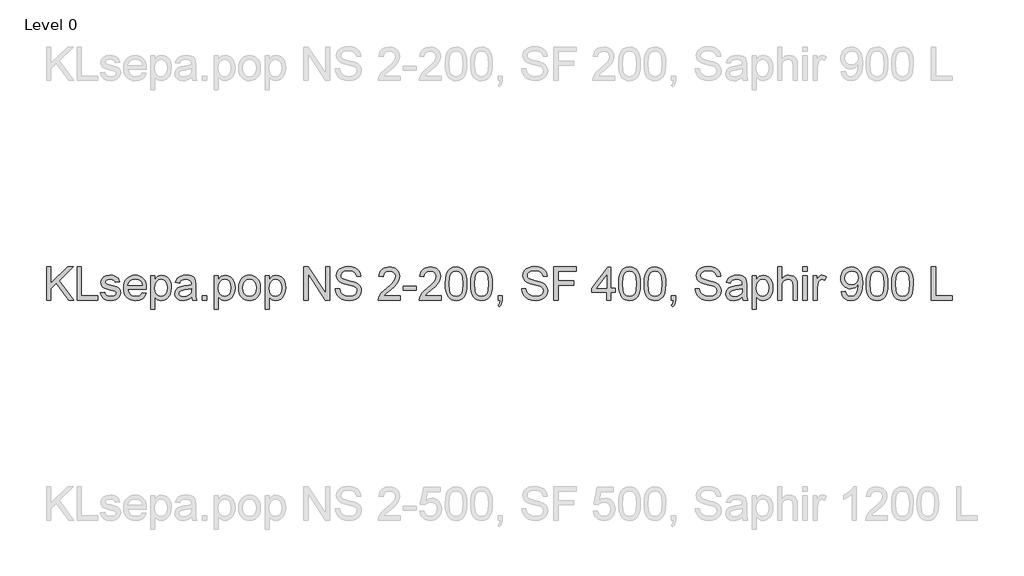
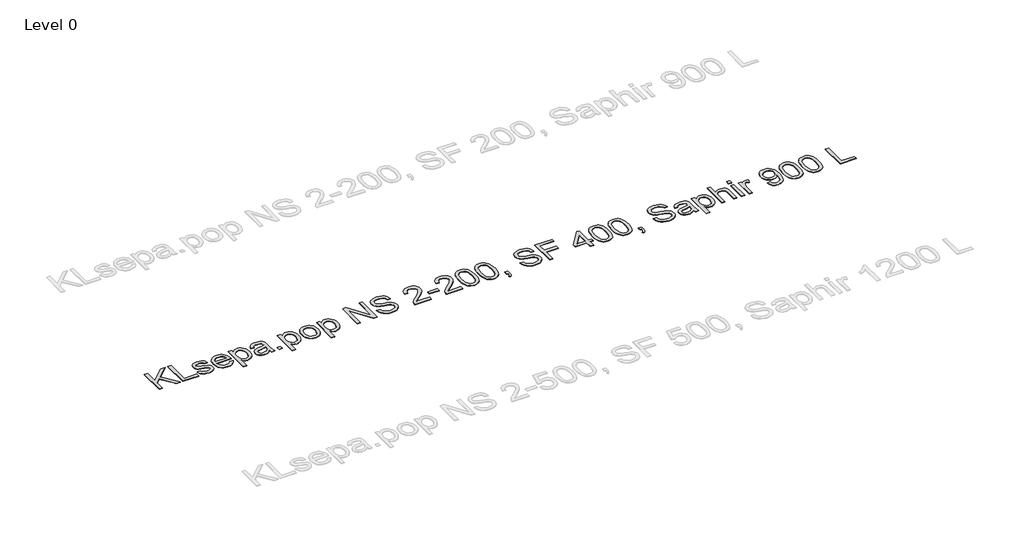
# One storey, part 11 of 15: 1 proxy.
"""IFC4 building model written with IfcOpenShell, lengths in millimetres."""

from ifc_helpers import new_model, si_unit, origin, origin_with_axes, place, context, project, spatial, polyline, outline, extrude, element, save

model = new_model("IFC4")

# Units and contexts
model_context = context("Model", 3, world=origin())
ifc_project = project(units=[si_unit("LENGTHUNIT", "METRE", prefix="MILLI")], contexts=[model_context])

# Site, building, storey
site = spatial("IfcSite", under=ifc_project)
building = spatial("IfcBuilding", under=site)
storey = spatial("IfcBuildingStorey", under=building, Name="Level 0", Elevation=0.0)

# Proxy
placement = place(None, origin())
element("IfcBuildingElementProxy", 1, Name="300mm Arial", ObjectType="300mm Arial", at=placement, inside=storey, context=model_context, shape_type="SweptSolid", body=[
    extrude(outline(polyline([(862.8420262, 4199.0232018), (862.8420262, 4500.3921323), (900.5131425, 4500.3921323), (900.5131425, 4352.8714522), (1055.0235805, 4500.3921323), (1107.7042822, 4500.3921323), (977.9890907, 4376.4894763), (1112.4131718, 4199.0232018), (1066.354346, 4199.0232018), (951.2808579, 4351.0320422), (900.5131425, 4302.6187717), (900.5131425, 4199.0232018), (862.8420262, 4199.0232018)])), origin_with_axes(), (0.0, 0.0, 1.0), 5.0),
    extrude(outline(polyline([(1140.666509, 4199.0232018), (1140.666509, 4500.3921323), (1178.3376253, 4500.3921323), (1178.3376253, 4236.6943181), (1329.0220905, 4236.6943181), (1329.0220905, 4199.0232018), (1140.666509, 4199.0232018)])), origin_with_axes(), (0.0, 0.0, 1.0), 5.0),
    extrude(outline(polyline([(1352.5665382, 4264.9476554), (1390.2376545, 4269.6565449), (1396.1789487, 4253.5433135), (1407.6752611, 4241.6975133), (1424.800168, 4234.4134498), (1447.6272458, 4231.9854286), (1470.1784121, 4234.2111147), (1486.0341261, 4240.8881729), (1495.4151169, 4250.5634693), (1498.5421139, 4261.7838702), (1495.3967228, 4271.3855903), (1485.9605497, 4278.706442), (1447.1857874, 4289.4485962), (1390.4583837, 4307.8794842), (1376.1017888, 4317.1409134), (1365.6999254, 4329.4005809), (1359.3815522, 4343.8767374), (1357.2754277, 4359.7876337), (1358.9676849, 4374.3833519), (1364.0444565, 4387.8570299), (1372.0458899, 4399.675239), (1382.5121326, 4409.3045503), (1406.4612505, 4420.4513747), (1438.8716543, 4425.0498997), (1463.3909893, 4423.2012926), (1484.7097509, 4417.6554716), (1501.8530519, 4408.9550624), (1513.8460049, 4397.642691), (1521.792256, 4382.881426), (1526.7954511, 4363.8343357), (1489.1243348, 4359.1254461), (1484.36946, 4370.9804434), (1474.960878, 4379.9107789), (1460.8066182, 4385.5117822), (1441.8147102, 4387.3787834), (1420.1832489, 4385.5945557), (1405.7622747, 4380.2418726), (1397.6504767, 4372.5163507), (1394.9465441, 4363.6136065), (1399.4347044, 4352.650723), (1413.4877966, 4344.3365899), (1445.9349886, 4336.3167624), (1501.2276525, 4318.5848503), (1515.8325677, 4310.1051703), (1526.9058157, 4298.4984933), (1533.8863766, 4283.7280312), (1536.2132302, 4265.7569957), (1533.4817064, 4247.178955), (1525.2871349, 4229.7045602), (1511.9422156, 4214.7041719), (1493.759648, 4203.5481504), (1471.7970928, 4196.6227718), (1447.112211, 4194.3143123), (1409.128395, 4198.7656844), (1381.4084866, 4212.1198009), (1362.9040223, 4234.2295088), (1352.5665382, 4264.9476554)])), origin_with_axes(), (0.0, 0.0, 1.0), 5.0),
    extrude(outline(polyline([(1733.5451324, 4264.9476554), (1770.4804847, 4260.2387658), (1757.1723536, 4232.4084929), (1735.9363654, 4211.6047661), (1707.2507668, 4198.6369257), (1671.5938044, 4194.3143123), (1648.2195022, 4196.1790141), (1627.3927827, 4201.7731197), (1609.1136461, 4211.0966291), (1593.3820923, 4224.1495421), (1580.7315501, 4240.5685754), (1571.6954486, 4259.9904455), (1566.2737877, 4282.4151523), (1564.4665674, 4307.842696), (1566.2921818, 4334.1324631), (1571.769025, 4357.3044302), (1580.897097, 4377.3585975), (1593.6763978, 4394.2949649), (1609.3665649, 4407.7502488), (1627.2272358, 4417.361166), (1647.2584104, 4423.1277162), (1669.4600889, 4425.0498997), (1690.9466966, 4423.1323148), (1710.3777638, 4417.3795601), (1727.7532903, 4407.7916356), (1743.0732761, 4394.3685413), (1755.5789647, 4377.4689621), (1764.5115994, 4357.451583), (1769.8711802, 4334.3164041), (1771.6577071, 4308.0634252), (1771.4369779, 4297.9098821), (1602.1376837, 4297.9098821), (1608.6583921, 4269.7117272), (1623.8059333, 4248.9815768), (1645.6673208, 4236.2344656), (1672.3295684, 4231.9854286), (1692.3791372, 4233.9535973), (1709.2649207, 4239.8581033), (1722.9869192, 4250.0668287), (1733.5451324, 4264.9476554)]), holes=[polyline([(1602.1376837, 4335.5809984), (1733.9865908, 4335.5809984), (1728.8914252, 4355.4834144), (1718.903429, 4369.7204476), (1696.9408739, 4382.9641994), (1669.3129361, 4387.3787834), (1643.9198813, 4383.8563132), (1622.9230165, 4373.2889029), (1608.3272983, 4356.8169866), (1602.1376837, 4335.5809984)])]), origin_with_axes(), (0.0, 0.0, 1.0), 5.0),
    extrude(outline(polyline([(1809.3288234, 4114.2631901), (1809.3288234, 4420.3410101), (1846.9999397, 4420.3410101), (1846.9999397, 4383.4056578), (1859.2871984, 4401.6250136), (1873.045985, 4414.6388392), (1889.08564, 4422.4471345), (1908.2155037, 4425.0498997), (1933.6913319, 4421.4078679), (1955.9665867, 4410.4817726), (1974.1031691, 4392.9338015), (1987.1629799, 4369.426142), (1995.0540487, 4341.6694455), (1997.6844049, 4311.3743631), (1994.7137578, 4279.1570974), (1985.8018165, 4250.3427401), (1971.2336895, 4226.3936223), (1951.2944854, 4208.7720747), (1928.0719344, 4197.9287529), (1903.653767, 4194.3143123), (1886.3357221, 4196.7331364), (1870.8754812, 4203.9896088), (1857.6409264, 4214.9432952), (1846.9999397, 4228.4537614), (1846.9999397, 4114.2631901), (1809.3288234, 4114.2631901)]), holes=[polyline([(1846.9999397, 4307.9162724), (1851.0742328, 4274.1447052), (1863.2971121, 4250.5266811), (1881.3325269, 4236.6207417), (1902.8444266, 4231.9854286), (1924.7058142, 4236.7862886), (1943.2010815, 4251.1888687), (1955.8102368, 4275.6714155), (1960.0132886, 4310.7121756), (1955.9114044, 4344.2998017), (1943.6057517, 4368.2489196), (1925.597928, 4382.5963174), (1904.389531, 4387.3787834), (1883.0983605, 4382.2928148), (1864.4007581, 4367.034909), (1851.3501443, 4342.0833127), (1846.9999397, 4307.9162724)])]), origin_with_axes(), (0.0, 0.0, 1.0), 5.0),
    extrude(outline(polyline([(2181.3310969, 4227.2765391), (2163.3324703, 4211.8438894), (2144.8004148, 4201.7455286), (2125.3118661, 4196.1721164), (2104.44376, 4194.3143123), (2072.9622582, 4198.7840785), (2049.7397073, 4212.1933772), (2035.4199006, 4232.5556457), (2030.6466317, 4257.8843211), (2032.4492535, 4273.5009117), (2037.8571188, 4287.6827627), (2046.1988431, 4299.8228685), (2056.8030416, 4309.314224), (2083.1801806, 4321.675059), (2115.7745254, 4327.3404417), (2154.2917703, 4333.3001301), (2181.1103677, 4340.289888), (2181.3310969, 4348.6775975), (2178.7375289, 4365.4898046), (2170.9568247, 4376.4894763), (2153.5560063, 4384.6564566), (2129.3125828, 4387.3787834), (2106.8717811, 4385.5669645), (2091.2000081, 4380.131508), (2080.5130362, 4370.0791325), (2073.0266376, 4354.4165566), (2035.3555213, 4359.1254461), (2041.8946237, 4379.7268379), (2051.6526936, 4395.9136456), (2065.540239, 4408.2928748), (2084.4677676, 4417.4715306), (2107.6167422, 4423.1553074), (2134.1686252, 4425.0498997), (2159.6352563, 4423.3760366), (2179.8227808, 4418.3544473), (2195.0438983, 4410.8036694), (2205.6113086, 4401.5422402), (2212.6194606, 4390.0919131), (2217.1628033, 4375.9744415), (2219.0022132, 4343.0122147), (2219.0022132, 4296.1440485), (2220.9151996, 4230.6978416), (2228.4199923, 4199.0232018), (2190.748876, 4199.0232018), (2181.3310969, 4227.2765391)]), holes=[polyline([(2181.3310969, 4302.6187717), (2120.5569913, 4291.067277), (2088.1465876, 4284.9604359), (2073.468096, 4275.027622), (2068.317748, 4260.5330714), (2071.1228482, 4249.3310647), (2079.5381489, 4240.1524089), (2093.3797089, 4234.0271737), (2112.4635874, 4231.9854286), (2132.6970972, 4234.2387058), (2150.5761621, 4240.9985375), (2165.0707128, 4250.9589425), (2175.1506794, 4262.8139398), (2179.6204457, 4275.027622), (2181.1103677, 4291.9501938), (2181.3310969, 4302.6187717)])]), origin_with_axes(), (0.0, 0.0, 1.0), 5.0),
    extrude(outline(polyline([(2280.2177772, 4199.0232018), (2280.2177772, 4236.6943181), (2317.8888936, 4236.6943181), (2317.8888936, 4199.0232018), (2280.2177772, 4199.0232018)])), origin_with_axes(), (0.0, 0.0, 1.0), 5.0),
    extrude(outline(polyline([(2388.5222366, 4114.2631901), (2388.5222366, 4420.3410101), (2426.1933529, 4420.3410101), (2426.1933529, 4383.4056578), (2438.4806116, 4401.6250136), (2452.2393982, 4414.6388392), (2468.2790532, 4422.4471345), (2487.4089169, 4425.0498997), (2512.8847451, 4421.4078679), (2535.1599999, 4410.4817726), (2553.2965823, 4392.9338015), (2566.3563931, 4369.426142), (2574.2474619, 4341.6694455), (2576.8778182, 4311.3743631), (2573.907171, 4279.1570974), (2564.9952297, 4250.3427401), (2550.4271027, 4226.3936223), (2530.4878986, 4208.7720747), (2507.2653476, 4197.9287529), (2482.8471802, 4194.3143123), (2465.5291353, 4196.7331364), (2450.0688944, 4203.9896088), (2436.8343396, 4214.9432952), (2426.1933529, 4228.4537614), (2426.1933529, 4114.2631901), (2388.5222366, 4114.2631901)]), holes=[polyline([(2426.1933529, 4307.9162724), (2430.267646, 4274.1447052), (2442.4905253, 4250.5266811), (2460.5259401, 4236.6207417), (2482.0378398, 4231.9854286), (2503.8992274, 4236.7862886), (2522.3944947, 4251.1888687), (2535.0036501, 4275.6714155), (2539.2067019, 4310.7121756), (2535.1048176, 4344.2998017), (2522.7991649, 4368.2489196), (2504.7913412, 4382.5963174), (2483.5829442, 4387.3787834), (2462.2917737, 4382.2928148), (2443.5941713, 4367.034909), (2430.5435575, 4342.0833127), (2426.1933529, 4307.9162724)])]), origin_with_axes(), (0.0, 0.0, 1.0), 5.0),
    extrude(outline(polyline([(2609.8400449, 4309.682106), (2611.8771915, 4338.3447119), (2617.9886311, 4363.0433894), (2628.1743639, 4383.7781383), (2642.4343897, 4400.5489588), (2656.7909846, 4411.2681204), (2672.6375015, 4418.9246644), (2689.9739405, 4423.5185909), (2708.8003016, 4425.0498997), (2729.5833351, 4423.1851978), (2748.3752073, 4417.5910922), (2765.1759181, 4408.2675829), (2779.9854677, 4395.2146698), (2792.0726905, 4378.8738115), (2800.7064211, 4359.6864662), (2805.8866594, 4337.6526339), (2807.6134055, 4312.7723147), (2804.559985, 4274.7149223), (2795.3997233, 4245.7442152), (2780.3993349, 4224.0483745), (2759.8255344, 4207.8155815), (2735.3889728, 4197.6896296), (2708.8003016, 4194.3143123), (2687.7137655, 4196.1721164), (2668.7471494, 4201.7455286), (2651.9004533, 4211.034549), (2637.1736772, 4224.0391775), (2625.2152131, 4240.538685), (2616.673453, 4260.3123422), (2611.5483969, 4283.3601492), (2609.8400449, 4309.682106)]), holes=[polyline([(2647.5111612, 4309.7556824), (2651.8705629, 4275.6622185), (2664.9487678, 4251.3728097), (2684.6304545, 4236.8322739), (2708.8003016, 4231.9854286), (2732.8597841, 4236.859865), (2752.5046827, 4251.4831743), (2765.5828876, 4276.0944798), (2769.9422892, 4310.9329048), (2765.5552964, 4344.0330873), (2752.3943181, 4367.9914022), (2732.7218284, 4382.5319381), (2708.8003016, 4387.3787834), (2684.6304545, 4382.5503322), (2664.9487678, 4368.0649786), (2651.8705629, 4343.8307522), (2647.5111612, 4309.7556824)])]), origin_with_axes(), (0.0, 0.0, 1.0), 5.0),
    extrude(outline(polyline([(2849.9934114, 4114.2631901), (2849.9934114, 4420.3410101), (2887.6645277, 4420.3410101), (2887.6645277, 4383.4056578), (2899.9517863, 4401.6250136), (2913.7105729, 4414.6388392), (2929.7502279, 4422.4471345), (2948.8800917, 4425.0498997), (2974.3559198, 4421.4078679), (2996.6311747, 4410.4817726), (3014.767757, 4392.9338015), (3027.8275678, 4369.426142), (3035.7186366, 4341.6694455), (3038.3489929, 4311.3743631), (3035.3783458, 4279.1570974), (3026.4664045, 4250.3427401), (3011.8982775, 4226.3936223), (2991.9590733, 4208.7720747), (2968.7365224, 4197.9287529), (2944.3183549, 4194.3143123), (2927.00031, 4196.7331364), (2911.5400692, 4203.9896088), (2898.3055144, 4214.9432952), (2887.6645277, 4228.4537614), (2887.6645277, 4114.2631901), (2849.9934114, 4114.2631901)]), holes=[polyline([(2887.6645277, 4307.9162724), (2891.7388208, 4274.1447052), (2903.9617001, 4250.5266811), (2921.9971149, 4236.6207417), (2943.5090145, 4231.9854286), (2965.3704021, 4236.7862886), (2983.8656694, 4251.1888687), (2996.4748248, 4275.6714155), (3000.6778766, 4310.7121756), (2996.5759924, 4344.2998017), (2984.2703396, 4368.2489196), (2966.262516, 4382.5963174), (2945.0541189, 4387.3787834), (2923.7629485, 4382.2928148), (2905.0653461, 4367.034909), (2892.0147323, 4342.0833127), (2887.6645277, 4307.9162724)])]), origin_with_axes(), (0.0, 0.0, 1.0), 5.0),
    extrude(outline(polyline([(3203.1601267, 4199.0232018), (3203.1601267, 4500.3921323), (3243.4799934, 4500.3921323), (3400.9334874, 4261.6367174), (3400.9334874, 4500.3921323), (3438.6046037, 4500.3921323), (3438.6046037, 4199.0232018), (3398.284737, 4199.0232018), (3240.8312431, 4437.8521931), (3240.8312431, 4199.0232018), (3203.1601267, 4199.0232018)])), origin_with_axes(), (0.0, 0.0, 1.0), 5.0),
    extrude(outline(polyline([(3490.4023886, 4302.6187717), (3528.0735049, 4302.6187717), (3532.3961183, 4281.7138773), (3540.2136107, 4264.9108672), (3552.4088989, 4251.5751448), (3569.8648995, 4241.0721139), (3591.2020553, 4234.2570999), (3615.0408085, 4231.9854286), (3636.0284764, 4233.7052769), (3654.404182, 4238.8648219), (3669.2942058, 4247.0318022), (3679.8248279, 4257.7739565), (3686.0880189, 4270.1072003), (3688.1757492, 4283.0474495), (3686.6122507, 4295.6566049), (3681.9217553, 4306.555109), (3672.3936116, 4315.8533264), (3656.3171684, 4323.6616218), (3601.4659629, 4338.0458078), (3565.4595126, 4347.5647544), (3542.4209027, 4356.6238486), (3523.668118, 4369.2973833), (3510.3783809, 4384.6564566), (3502.459721, 4402.3699747), (3499.8201677, 4422.1068437), (3503.0851204, 4444.1705664), (3512.8799785, 4464.7443669), (3528.9472246, 4482.1819735), (3551.0293414, 4494.8371141), (3577.5352391, 4502.5350449), (3606.8738283, 4505.1010218), (3638.6588326, 4502.4154832), (3666.4707115, 4494.3588675), (3689.3161834, 4481.0967216), (3706.2019669, 4462.7945924), (3716.8889389, 4440.592914), (3721.137976, 4415.6321206), (3683.4668596, 4415.6321206), (3676.5506781, 4438.1097105), (3662.1297039, 4454.3333065), (3639.5969317, 4464.1557557), (3608.3453562, 4467.4299055), (3576.3580168, 4464.1925439), (3554.4138557, 4454.4804593), (3541.7219269, 4440.1882438), (3537.491284, 4423.2104897), (3540.4895222, 4408.7343332), (3549.484237, 4397.090868), (3570.7478163, 4386.6798076), (3610.9941066, 4376.0480179), (3652.5279839, 4365.9496571), (3677.6543241, 4357.1388833), (3699.1294356, 4343.4720672), (3714.1114298, 4326.6046777), (3722.9130066, 4306.7206559), (3725.8468655, 4284.0039427), (3722.4715482, 4260.7813918), (3712.3455963, 4238.9383983), (3695.882877, 4220.1396283), (3673.4972576, 4206.0497479), (3646.5774926, 4197.2481712), (3616.5123365, 4194.3143123), (3579.6045754, 4197.4780974), (3549.2267196, 4206.9694529), (3525.0292814, 4222.8251669), (3506.6627728, 4245.0820276), (3494.8721548, 4272.1949307), (3490.4023886, 4302.6187717)])), origin_with_axes(), (0.0, 0.0, 1.0), 5.0),
    extrude(outline(polyline([(4079.0135809, 4236.6943181), (4079.0135809, 4199.0232018), (3881.2402203, 4199.0232018), (3885.2869222, 4224.9956707), (3894.5759426, 4245.2935598), (3908.1691823, 4264.9844436), (3927.8324749, 4285.5950323), (3955.3316541, 4308.6520364), (3995.9826146, 4344.7596542), (4020.3731908, 4371.4127048), (4032.568479, 4393.0441661), (4036.633575, 4414.0870162), (4032.7984052, 4432.9501655), (4021.2928958, 4448.6311355), (4003.6069689, 4459.1985459), (3981.2305465, 4462.721016), (3957.7320841, 4459.2813193), (3939.4759401, 4448.9622293), (3927.6945192, 4432.5730865), (3923.6202261, 4410.923231), (3885.9491098, 4415.6321206), (3895.0817803, 4452.0708322), (3903.6281389, 4466.6067695), (3914.8278464, 4478.6870946), (3928.4233854, 4488.1830486), (3944.1572385, 4494.9658728), (3982.0398869, 4500.3921323), (4002.2297107, 4498.8838161), (4020.1984469, 4494.3588675), (4035.9460955, 4486.8172866), (4049.4726566, 4476.2590734), (4060.3366718, 4463.465977), (4068.0966827, 4449.2197467), (4072.7526892, 4433.5203826), (4074.3046913, 4416.3678846), (4072.6308282, 4398.3508639), (4067.609239, 4380.6465428), (4058.6972977, 4362.6387192), (4045.3523783, 4343.7111905), (4024.0796019, 4321.114039), (3991.3840896, 4292.0973466), (3948.0475906, 4255.8609701), (3931.0514424, 4236.6943181), (4079.0135809, 4236.6943181)])), origin_with_axes(), (0.0, 0.0, 1.0), 5.0),
    extrude(outline(polyline([(4107.2669181, 4288.492103), (4107.2669181, 4326.1632194), (4224.9891565, 4326.1632194), (4224.9891565, 4288.492103), (4107.2669181, 4288.492103)])), origin_with_axes(), (0.0, 0.0, 1.0), 5.0),
    extrude(outline(polyline([(4451.0158544, 4236.6943181), (4451.0158544, 4199.0232018), (4253.2424938, 4199.0232018), (4257.2891957, 4224.9956707), (4266.5782161, 4245.2935598), (4280.1714558, 4264.9844436), (4299.8347485, 4285.5950323), (4327.3339276, 4308.6520364), (4367.9848881, 4344.7596542), (4392.3754644, 4371.4127048), (4404.5707525, 4393.0441661), (4408.6358485, 4414.0870162), (4404.8006787, 4432.9501655), (4393.2951693, 4448.6311355), (4375.6092424, 4459.1985459), (4353.2328201, 4462.721016), (4329.7343576, 4459.2813193), (4311.4782136, 4448.9622293), (4299.6967927, 4432.5730865), (4295.6224996, 4410.923231), (4257.9513833, 4415.6321206), (4267.0840538, 4452.0708322), (4275.6304124, 4466.6067695), (4286.8301199, 4478.6870946), (4300.4256589, 4488.1830486), (4316.159512, 4494.9658728), (4354.0421605, 4500.3921323), (4374.2319842, 4498.8838161), (4392.2007204, 4494.3588675), (4407.9483691, 4486.8172866), (4421.4749302, 4476.2590734), (4432.3389453, 4463.465977), (4440.0989562, 4449.2197467), (4444.7549627, 4433.5203826), (4446.3069648, 4416.3678846), (4444.6331018, 4398.3508639), (4439.6115125, 4380.6465428), (4430.6995712, 4362.6387192), (4417.3546518, 4343.7111905), (4396.0818755, 4321.114039), (4363.3863631, 4292.0973466), (4320.0498641, 4255.8609701), (4303.0537159, 4236.6943181), (4451.0158544, 4236.6943181)])), origin_with_axes(), (0.0, 0.0, 1.0), 5.0),
    extrude(outline(polyline([(4488.6869707, 4347.2796459), (4491.4552827, 4395.5181725), (4499.7602187, 4433.9894321), (4513.5190054, 4463.282036), (4532.6488691, 4483.9845953), (4557.2877657, 4496.290248), (4587.573651, 4500.3921323), (4610.7870049, 4497.9641111), (4631.5723376, 4490.6800476), (4648.9547619, 4478.8250503), (4661.9593904, 4462.6842278), (4671.7818397, 4442.3955357), (4679.6177262, 4418.0969299), (4684.74968, 4387.2408276), (4686.4603313, 4347.2796459), (4683.7196104, 4299.3170308), (4675.4974478, 4260.9377416), (4661.8214347, 4231.6175466), (4642.7191621, 4210.8322139), (4618.0250831, 4198.4437877), (4587.573651, 4194.3143123), (4566.8251065, 4196.107737), (4548.4310067, 4201.4880112), (4532.3913517, 4210.4551348), (4518.7061415, 4223.0091079), (4505.5727543, 4245.7028285), (4496.1917634, 4273.9791583), (4490.5631689, 4307.8380975), (4488.6869707, 4347.2796459)]), holes=[polyline([(4526.358087, 4347.3532223), (4530.7726709, 4288.0966299), (4536.2909009, 4267.8286312), (4544.0164228, 4253.8008309), (4563.7348977, 4237.4392792), (4587.573651, 4231.9854286), (4611.4124043, 4237.4576733), (4631.1308792, 4253.8744073), (4638.8564011, 4267.9252003), (4644.374631, 4288.1886004), (4648.789215, 4347.3532223), (4644.5217838, 4405.2762424), (4639.1874949, 4425.4775625), (4631.7194904, 4439.8387559), (4612.0378037, 4457.0004509), (4587.1321926, 4462.721016), (4563.5509567, 4457.6810326), (4544.605034, 4442.5610826), (4536.6219947, 4426.9260978), (4530.9198237, 4405.8464595), (4526.358087, 4347.3532223)])]), origin_with_axes(), (0.0, 0.0, 1.0), 5.0),
    extrude(outline(polyline([(4719.4225581, 4347.2796459), (4722.1908701, 4395.5181725), (4730.4958061, 4433.9894321), (4744.2545927, 4463.282036), (4763.3844565, 4483.9845953), (4788.0233531, 4496.290248), (4818.3092384, 4500.3921323), (4841.5225923, 4497.9641111), (4862.307925, 4490.6800476), (4879.6903493, 4478.8250503), (4892.6949778, 4462.6842278), (4902.5174271, 4442.3955357), (4910.3533136, 4418.0969299), (4915.4852674, 4387.2408276), (4917.1959187, 4347.2796459), (4914.4551978, 4299.3170308), (4906.2330352, 4260.9377416), (4892.557022, 4231.6175466), (4873.4547494, 4210.8322139), (4848.7606705, 4198.4437877), (4818.3092384, 4194.3143123), (4797.5606938, 4196.107737), (4779.1665941, 4201.4880112), (4763.1269391, 4210.4551348), (4749.4417289, 4223.0091079), (4736.3083416, 4245.7028285), (4726.9273508, 4273.9791583), (4721.2987562, 4307.8380975), (4719.4225581, 4347.2796459)]), holes=[polyline([(4757.0936744, 4347.3532223), (4761.5082583, 4288.0966299), (4767.0264882, 4267.8286312), (4774.7520101, 4253.8008309), (4794.4704851, 4237.4392792), (4818.3092384, 4231.9854286), (4842.1479917, 4237.4576733), (4861.8664666, 4253.8744073), (4869.5919885, 4267.9252003), (4875.1102184, 4288.1886004), (4879.5248024, 4347.3532223), (4875.2573712, 4405.2762424), (4869.9230823, 4425.4775625), (4862.4550778, 4439.8387559), (4842.773391, 4457.0004509), (4817.86778, 4462.721016), (4794.2865441, 4457.6810326), (4775.3406213, 4442.5610826), (4767.357582, 4426.9260978), (4761.6554111, 4405.8464595), (4757.0936744, 4347.3532223)])]), origin_with_axes(), (0.0, 0.0, 1.0), 5.0),
    extrude(outline(polyline([(4968.9937036, 4199.0232018), (4968.9937036, 4236.6943181), (5006.6648199, 4236.6943181), (5006.6648199, 4199.0232018), (5004.9725627, 4177.474514), (4999.8957912, 4160.5059569), (4991.1401997, 4147.4921313), (4978.4114827, 4137.8076378), (4968.9937036, 4151.9343064), (4977.1606839, 4158.7585174), (4982.8260666, 4168.1946906), (4987.7556853, 4199.0232018), (4968.9937036, 4199.0232018)])), origin_with_axes(), (0.0, 0.0, 1.0), 5.0),
    extrude(outline(polyline([(5185.6026224, 4302.6187717), (5223.2737387, 4302.6187717), (5227.5963521, 4281.7138773), (5235.4138445, 4264.9108672), (5247.6091326, 4251.5751448), (5265.0651333, 4241.0721139), (5286.402289, 4234.2570999), (5310.2410423, 4231.9854286), (5331.2287101, 4233.7052769), (5349.6044158, 4238.8648219), (5364.4944396, 4247.0318022), (5375.0250617, 4257.7739565), (5381.2882526, 4270.1072003), (5383.375983, 4283.0474495), (5381.8124845, 4295.6566049), (5377.121989, 4306.555109), (5367.5938454, 4315.8533264), (5351.5174022, 4323.6616218), (5296.6661967, 4338.0458078), (5260.6597464, 4347.5647544), (5237.6211365, 4356.6238486), (5218.8683518, 4369.2973833), (5205.5786147, 4384.6564566), (5197.6599547, 4402.3699747), (5195.0204014, 4422.1068437), (5198.2853541, 4444.1705664), (5208.0802123, 4464.7443669), (5224.1474584, 4482.1819735), (5246.2295752, 4494.8371141), (5272.7354729, 4502.5350449), (5302.074062, 4505.1010218), (5333.8590664, 4502.4154832), (5361.6709452, 4494.3588675), (5384.5164171, 4481.0967216), (5401.4022007, 4462.7945924), (5412.0891727, 4440.592914), (5416.3382097, 4415.6321206), (5378.6670934, 4415.6321206), (5371.7509119, 4438.1097105), (5357.3299377, 4454.3333065), (5334.7971655, 4464.1557557), (5303.54559, 4467.4299055), (5271.5582505, 4464.1925439), (5249.6140895, 4454.4804593), (5236.9221607, 4440.1882438), (5232.6915177, 4423.2104897), (5235.689756, 4408.7343332), (5244.6844708, 4397.090868), (5265.9480501, 4386.6798076), (5306.1943404, 4376.0480179), (5347.7282176, 4365.9496571), (5372.8545579, 4357.1388833), (5394.3296694, 4343.4720672), (5409.3116636, 4326.6046777), (5418.1132404, 4306.7206559), (5421.0470993, 4284.0039427), (5417.671782, 4260.7813918), (5407.54583, 4238.9383983), (5391.0831108, 4220.1396283), (5368.6974914, 4206.0497479), (5341.7777264, 4197.2481712), (5311.7125703, 4194.3143123), (5274.8048091, 4197.4780974), (5244.4269534, 4206.9694529), (5220.2295151, 4222.8251669), (5201.8630065, 4245.0820276), (5190.0723886, 4272.1949307), (5185.6026224, 4302.6187717)])), origin_with_axes(), (0.0, 0.0, 1.0), 5.0),
    extrude(outline(polyline([(5477.5537737, 4199.0232018), (5477.5537737, 4500.3921323), (5680.0360239, 4500.3921323), (5680.0360239, 4462.721016), (5515.22489, 4462.721016), (5515.22489, 4373.2521147), (5656.4915762, 4373.2521147), (5656.4915762, 4335.5809984), (5515.22489, 4335.5809984), (5515.22489, 4199.0232018), (5477.5537737, 4199.0232018)])), origin_with_axes(), (0.0, 0.0, 1.0), 5.0),
    extrude(outline(polyline([(5957.8605066, 4199.0232018), (5957.8605066, 4269.6565449), (5821.30271, 4269.6565449), (5821.30271, 4307.3276612), (5967.2782857, 4495.6832427), (5995.5316229, 4495.6832427), (5995.5316229, 4307.3276612), (6033.2027392, 4307.3276612), (6033.2027392, 4269.6565449), (5995.5316229, 4269.6565449), (5995.5316229, 4199.0232018), (5957.8605066, 4199.0232018)]), holes=[polyline([(5957.8605066, 4307.3276612), (5957.8605066, 4423.7255245), (5867.6558414, 4307.3276612), (5957.8605066, 4307.3276612)])]), origin_with_axes(), (0.0, 0.0, 1.0), 5.0),
    extrude(outline(polyline([(6066.164966, 4347.2796459), (6068.933278, 4395.5181725), (6077.2382141, 4433.9894321), (6090.9970007, 4463.282036), (6110.1268644, 4483.9845953), (6134.7657611, 4496.290248), (6165.0516463, 4500.3921323), (6188.2650002, 4497.9641111), (6209.0503329, 4490.6800476), (6226.4327572, 4478.8250503), (6239.4373857, 4462.6842278), (6249.259835, 4442.3955357), (6257.0957215, 4418.0969299), (6262.2276753, 4387.2408276), (6263.9383266, 4347.2796459), (6261.1976058, 4299.3170308), (6252.9754432, 4260.9377416), (6239.29943, 4231.6175466), (6220.1971574, 4210.8322139), (6195.5030785, 4198.4437877), (6165.0516463, 4194.3143123), (6144.3031018, 4196.107737), (6125.909002, 4201.4880112), (6109.869347, 4210.4551348), (6096.1841368, 4223.0091079), (6083.0507496, 4245.7028285), (6073.6697587, 4273.9791583), (6068.0411642, 4307.8380975), (6066.164966, 4347.2796459)]), holes=[polyline([(6103.8360823, 4347.3532223), (6108.2506663, 4288.0966299), (6113.7688962, 4267.8286312), (6121.4944181, 4253.8008309), (6141.212893, 4237.4392792), (6165.0516463, 4231.9854286), (6188.8903996, 4237.4576733), (6208.6088745, 4253.8744073), (6216.3343964, 4267.9252003), (6221.8526264, 4288.1886004), (6226.2672103, 4347.3532223), (6221.9997792, 4405.2762424), (6216.6654902, 4425.4775625), (6209.1974857, 4439.8387559), (6189.515799, 4457.0004509), (6164.6101879, 4462.721016), (6141.028952, 4457.6810326), (6122.0830293, 4442.5610826), (6114.09999, 4426.9260978), (6108.3978191, 4405.8464595), (6103.8360823, 4347.3532223)])]), origin_with_axes(), (0.0, 0.0, 1.0), 5.0),
    extrude(outline(polyline([(6296.9005534, 4347.2796459), (6299.6688654, 4395.5181725), (6307.9738014, 4433.9894321), (6321.7325881, 4463.282036), (6340.8624518, 4483.9845953), (6365.5013484, 4496.290248), (6395.7872337, 4500.3921323), (6419.0005876, 4497.9641111), (6439.7859203, 4490.6800476), (6457.1683446, 4478.8250503), (6470.1729731, 4462.6842278), (6479.9954224, 4442.3955357), (6487.8313089, 4418.0969299), (6492.9632627, 4387.2408276), (6494.673914, 4347.2796459), (6491.9331931, 4299.3170308), (6483.7110305, 4260.9377416), (6470.0350174, 4231.6175466), (6450.9327448, 4210.8322139), (6426.2386658, 4198.4437877), (6395.7872337, 4194.3143123), (6375.0386892, 4196.107737), (6356.6445894, 4201.4880112), (6340.6049344, 4210.4551348), (6326.9197242, 4223.0091079), (6313.786337, 4245.7028285), (6304.4053461, 4273.9791583), (6298.7767516, 4307.8380975), (6296.9005534, 4347.2796459)]), holes=[polyline([(6334.5716697, 4347.3532223), (6338.9862536, 4288.0966299), (6344.5044836, 4267.8286312), (6352.2300055, 4253.8008309), (6371.9484804, 4237.4392792), (6395.7872337, 4231.9854286), (6419.625987, 4237.4576733), (6439.3444619, 4253.8744073), (6447.0699838, 4267.9252003), (6452.5882137, 4288.1886004), (6457.0027977, 4347.3532223), (6452.7353665, 4405.2762424), (6447.4010776, 4425.4775625), (6439.9330731, 4439.8387559), (6420.2513864, 4457.0004509), (6395.3457753, 4462.721016), (6371.7645394, 4457.6810326), (6352.8186167, 4442.5610826), (6344.8355774, 4426.9260978), (6339.1334064, 4405.8464595), (6334.5716697, 4347.3532223)])]), origin_with_axes(), (0.0, 0.0, 1.0), 5.0),
    extrude(outline(polyline([(6546.4716989, 4199.0232018), (6546.4716989, 4236.6943181), (6584.1428152, 4236.6943181), (6584.1428152, 4199.0232018), (6582.450558, 4177.474514), (6577.3737865, 4160.5059569), (6568.618195, 4147.4921313), (6555.889478, 4137.8076378), (6546.4716989, 4151.9343064), (6554.6386792, 4158.7585174), (6560.3040619, 4168.1946906), (6565.2336807, 4199.0232018), (6546.4716989, 4199.0232018)])), origin_with_axes(), (0.0, 0.0, 1.0), 5.0),
    extrude(outline(polyline([(6763.0806177, 4302.6187717), (6800.751734, 4302.6187717), (6805.0743474, 4281.7138773), (6812.8918398, 4264.9108672), (6825.087128, 4251.5751448), (6842.5431286, 4241.0721139), (6863.8802844, 4234.2570999), (6887.7190376, 4231.9854286), (6908.7067055, 4233.7052769), (6927.0824111, 4238.8648219), (6941.9724349, 4247.0318022), (6952.503057, 4257.7739565), (6958.766248, 4270.1072003), (6960.8539783, 4283.0474495), (6959.2904798, 4295.6566049), (6954.5999844, 4306.555109), (6945.0718407, 4315.8533264), (6928.9953975, 4323.6616218), (6874.144192, 4338.0458078), (6838.1377417, 4347.5647544), (6815.0991318, 4356.6238486), (6796.3463471, 4369.2973833), (6783.05661, 4384.6564566), (6775.1379501, 4402.3699747), (6772.4983967, 4422.1068437), (6775.7633495, 4444.1705664), (6785.5582076, 4464.7443669), (6801.6254537, 4482.1819735), (6823.7075705, 4494.8371141), (6850.2134682, 4502.5350449), (6879.5520573, 4505.1010218), (6911.3370617, 4502.4154832), (6939.1489406, 4494.3588675), (6961.9944125, 4481.0967216), (6978.880196, 4462.7945924), (6989.567168, 4440.592914), (6993.816205, 4415.6321206), (6956.1450887, 4415.6321206), (6949.2289072, 4438.1097105), (6934.807933, 4454.3333065), (6912.2751608, 4464.1557557), (6881.0235853, 4467.4299055), (6849.0362458, 4464.1925439), (6827.0920848, 4454.4804593), (6814.400156, 4440.1882438), (6810.1695131, 4423.2104897), (6813.1677513, 4408.7343332), (6822.1624661, 4397.090868), (6843.4260454, 4386.6798076), (6883.6723357, 4376.0480179), (6925.2062129, 4365.9496571), (6950.3325532, 4357.1388833), (6971.8076647, 4343.4720672), (6986.7896589, 4326.6046777), (6995.5912357, 4306.7206559), (6998.5250946, 4284.0039427), (6995.1497773, 4260.7813918), (6985.0238254, 4238.9383983), (6968.5611061, 4220.1396283), (6946.1754867, 4206.0497479), (6919.2557217, 4197.2481712), (6889.1905656, 4194.3143123), (6852.2828045, 4197.4780974), (6821.9049487, 4206.9694529), (6797.7075105, 4222.8251669), (6779.3410019, 4245.0820276), (6767.5503839, 4272.1949307), (6763.0806177, 4302.6187717)])), origin_with_axes(), (0.0, 0.0, 1.0), 5.0),
    extrude(outline(polyline([(7191.5895657, 4227.2765391), (7173.590939, 4211.8438894), (7155.0588835, 4201.7455286), (7135.5703348, 4196.1721164), (7114.7022287, 4194.3143123), (7083.2207269, 4198.7840785), (7059.998176, 4212.1933772), (7045.6783693, 4232.5556457), (7040.9051004, 4257.8843211), (7042.7077222, 4273.5009117), (7048.1155875, 4287.6827627), (7056.4573118, 4299.8228685), (7067.0615103, 4309.314224), (7093.4386493, 4321.675059), (7126.0329941, 4327.3404417), (7164.550239, 4333.3001301), (7191.3688365, 4340.289888), (7191.5895657, 4348.6775975), (7188.9959976, 4365.4898046), (7181.2152934, 4376.4894763), (7163.814475, 4384.6564566), (7139.5710515, 4387.3787834), (7117.1302498, 4385.5669645), (7101.4584768, 4380.131508), (7090.7715049, 4370.0791325), (7083.2851063, 4354.4165566), (7045.61399, 4359.1254461), (7052.1530924, 4379.7268379), (7061.9111624, 4395.9136456), (7075.7987077, 4408.2928748), (7094.7262363, 4417.4715306), (7117.8752109, 4423.1553074), (7144.4270939, 4425.0498997), (7169.893725, 4423.3760366), (7190.0812495, 4418.3544473), (7205.302367, 4410.8036694), (7215.8697773, 4401.5422402), (7222.8779293, 4390.0919131), (7227.421272, 4375.9744415), (7229.260682, 4343.0122147), (7229.260682, 4296.1440485), (7231.1736683, 4230.6978416), (7238.678461, 4199.0232018), (7201.0073447, 4199.0232018), (7191.5895657, 4227.2765391)]), holes=[polyline([(7191.5895657, 4302.6187717), (7130.8154601, 4291.067277), (7098.4050563, 4284.9604359), (7083.7265647, 4275.027622), (7078.5762167, 4260.5330714), (7081.3813169, 4249.3310647), (7089.7966176, 4240.1524089), (7103.6381777, 4234.0271737), (7122.7220562, 4231.9854286), (7142.9555659, 4234.2387058), (7160.8346309, 4240.9985375), (7175.3291815, 4250.9589425), (7185.4091481, 4262.8139398), (7189.8789144, 4275.027622), (7191.3688365, 4291.9501938), (7191.5895657, 4302.6187717)])]), origin_with_axes(), (0.0, 0.0, 1.0), 5.0),
    extrude(outline(polyline([(7281.0584669, 4114.2631901), (7281.0584669, 4420.3410101), (7318.7295832, 4420.3410101), (7318.7295832, 4383.4056578), (7331.0168418, 4401.6250136), (7344.7756284, 4414.6388392), (7360.8152834, 4422.4471345), (7379.9451472, 4425.0498997), (7405.4209754, 4421.4078679), (7427.6962302, 4410.4817726), (7445.8328125, 4392.9338015), (7458.8926233, 4369.426142), (7466.7836921, 4341.6694455), (7469.4140484, 4311.3743631), (7466.4434013, 4279.1570974), (7457.53146, 4250.3427401), (7442.963333, 4226.3936223), (7423.0241288, 4208.7720747), (7399.8015779, 4197.9287529), (7375.3834104, 4194.3143123), (7358.0653655, 4196.7331364), (7342.6051247, 4203.9896088), (7329.3705699, 4214.9432952), (7318.7295832, 4228.4537614), (7318.7295832, 4114.2631901), (7281.0584669, 4114.2631901)]), holes=[polyline([(7318.7295832, 4307.9162724), (7322.8038763, 4274.1447052), (7335.0267556, 4250.5266811), (7353.0621704, 4236.6207417), (7374.5740701, 4231.9854286), (7396.4354576, 4236.7862886), (7414.9307249, 4251.1888687), (7427.5398803, 4275.6714155), (7431.7429321, 4310.7121756), (7427.6410479, 4344.2998017), (7415.3353951, 4368.2489196), (7397.3275715, 4382.5963174), (7376.1191744, 4387.3787834), (7354.828004, 4382.2928148), (7336.1304016, 4367.034909), (7323.0797878, 4342.0833127), (7318.7295832, 4307.9162724)])]), origin_with_axes(), (0.0, 0.0, 1.0), 5.0),
    extrude(outline(polyline([(7511.7940543, 4199.0232018), (7511.7940543, 4500.3921323), (7549.4651706, 4500.3921323), (7549.4651706, 4389.5860753), (7563.3021321, 4405.1014985), (7578.8405479, 4416.1839436), (7596.0804179, 4422.8334106), (7615.0217421, 4425.0498997), (7637.7752435, 4422.6310755), (7657.3281715, 4415.3746032), (7672.724033, 4403.8506997), (7683.0063348, 4388.6295821), (7688.8004762, 4367.7154907), (7690.7318567, 4339.1126656), (7690.7318567, 4199.0232018), (7653.0607404, 4199.0232018), (7653.0607404, 4335.2131164), (7650.0625021, 4358.7943523), (7641.0677874, 4374.9443719), (7626.5732368, 4384.2701805), (7607.075491, 4387.3787834), (7591.1553977, 4385.281856), (7576.2101916, 4378.9910739), (7563.8309625, 4369.1134423), (7555.6087999, 4356.2559666), (7551.0010779, 4339.1678479), (7549.4651706, 4316.5982875), (7549.4651706, 4199.0232018), (7511.7940543, 4199.0232018)])), origin_with_axes(), (0.0, 0.0, 1.0), 5.0),
    extrude(outline(polyline([(7742.5296416, 4462.721016), (7742.5296416, 4500.3921323), (7780.2007579, 4500.3921323), (7780.2007579, 4462.721016), (7742.5296416, 4462.721016)])), origin_with_axes(), (0.0, 0.0, 1.0), 5.0),
    extrude(outline(polyline([(7742.5296416, 4199.0232018), (7742.5296416, 4420.3410101), (7780.2007579, 4420.3410101), (7780.2007579, 4199.0232018), (7742.5296416, 4199.0232018)])), origin_with_axes(), (0.0, 0.0, 1.0), 5.0),
    extrude(outline(polyline([(7836.7074324, 4199.0232018), (7836.7074324, 4420.3410101), (7869.6696592, 4420.3410101), (7869.6696592, 4387.5995125), (7881.8465532, 4406.5822235), (7893.0669541, 4417.7658362), (7904.3241431, 4423.2288838), (7916.6114017, 4425.0498997), (7935.3733835, 4422.1436319), (7954.4296709, 4413.4248286), (7941.8481066, 4379.6532615), (7928.6043548, 4385.4474029), (7915.360603, 4387.3787834), (7904.112611, 4385.5209793), (7894.0602354, 4379.947567), (7885.9392404, 4371.081611), (7880.4853898, 4359.3461753), (7875.905259, 4338.3033252), (7874.3785487, 4315.3474887), (7874.3785487, 4199.0232018), (7836.7074324, 4199.0232018)])), origin_with_axes(), (0.0, 0.0, 1.0), 5.0),
    extrude(outline(polyline([(8090.9874675, 4274.3654344), (8128.6585838, 4279.074324), (8135.0965187, 4257.691183), (8145.5811555, 4243.132253), (8159.854977, 4234.7721347), (8177.6604655, 4231.9854286), (8193.6357412, 4233.7788533), (8208.1578829, 4239.1591275), (8220.2244124, 4247.5376399), (8228.8328511, 4258.3257794), (8241.1568979, 4291.067277), (8246.6015514, 4334.771658), (8246.3808222, 4342.1292979), (8233.3302084, 4326.2000076), (8216.2512868, 4313.5816551), (8196.376462, 4305.3594925), (8174.9381388, 4302.6187717), (8157.042979, 4304.2926347), (8140.5871575, 4309.314224), (8125.5706743, 4317.6835394), (8111.9935294, 4329.4005809), (8100.7432381, 4343.8537448), (8092.7073158, 4360.4314272), (8087.8857624, 4379.1336281), (8086.2785779, 4399.9603476), (8087.9639373, 4421.4814443), (8093.0200155, 4440.7952491), (8101.4468124, 4457.9017618), (8113.2443282, 4472.8009826), (8127.5802297, 4484.8721106), (8143.6221839, 4493.4943449), (8161.3701909, 4498.6676854), (8180.8242507, 4500.3921323), (8208.9212381, 4496.4557949), (8234.4982338, 4484.6467829), (8255.8905718, 4465.5537073), (8271.4335861, 4439.7651795), (8280.8973504, 4404.1174141), (8284.0519385, 4355.4466262), (8280.9065475, 4303.8419793), (8271.4703743, 4263.954374), (8255.8261925, 4233.9811884), (8234.0567754, 4212.1198009), (8207.1002222, 4198.7656844), (8175.8946319, 4194.3143123), (8143.6865633, 4199.5658278), (8117.9900059, 4215.3203742), (8100.0189704, 4240.5846702), (8090.9874675, 4274.3654344)]), holes=[polyline([(8246.3808222, 4400.8432644), (8242.3157262, 4426.3742748), (8230.120438, 4446.0191734), (8211.1929094, 4458.5455553), (8186.9310918, 4462.721016), (8161.7679633, 4458.2236586), (8141.60803, 4444.7315864), (8128.3642782, 4424.0842094), (8123.9496942, 4398.1209376), (8128.1251549, 4374.8432044), (8140.6515368, 4356.3663312), (8160.3148295, 4344.3089988), (8185.9010222, 4340.289888), (8209.9697018, 4344.3089988), (8229.3478858, 4356.3663312), (8242.1225881, 4375.5237861), (8246.3808222, 4400.8432644)])]), origin_with_axes(), (0.0, 0.0, 1.0), 5.0),
    extrude(outline(polyline([(8317.0141653, 4347.2796459), (8319.7824773, 4395.5181725), (8328.0874134, 4433.9894321), (8341.8462, 4463.282036), (8360.9760637, 4483.9845953), (8385.6149603, 4496.290248), (8415.9008456, 4500.3921323), (8439.1141995, 4497.9641111), (8459.8995322, 4490.6800476), (8477.2819565, 4478.8250503), (8490.286585, 4462.6842278), (8500.1090343, 4442.3955357), (8507.9449208, 4418.0969299), (8513.0768746, 4387.2408276), (8514.7875259, 4347.2796459), (8512.046805, 4299.3170308), (8503.8246424, 4260.9377416), (8490.1486293, 4231.6175466), (8471.0463567, 4210.8322139), (8446.3522778, 4198.4437877), (8415.9008456, 4194.3143123), (8395.1523011, 4196.107737), (8376.7582013, 4201.4880112), (8360.7185463, 4210.4551348), (8347.0333361, 4223.0091079), (8333.8999489, 4245.7028285), (8324.518958, 4273.9791583), (8318.8903635, 4307.8380975), (8317.0141653, 4347.2796459)]), holes=[polyline([(8354.6852816, 4347.3532223), (8359.0998655, 4288.0966299), (8364.6180955, 4267.8286312), (8372.3436174, 4253.8008309), (8392.0620923, 4237.4392792), (8415.9008456, 4231.9854286), (8439.7395989, 4237.4576733), (8459.4580738, 4253.8744073), (8467.1835957, 4267.9252003), (8472.7018257, 4288.1886004), (8477.1164096, 4347.3532223), (8472.8489785, 4405.2762424), (8467.5146895, 4425.4775625), (8460.046685, 4439.8387559), (8440.3649983, 4457.0004509), (8415.4593872, 4462.721016), (8391.8781513, 4457.6810326), (8372.9322286, 4442.5610826), (8364.9491893, 4426.9260978), (8359.2470183, 4405.8464595), (8354.6852816, 4347.3532223)])]), origin_with_axes(), (0.0, 0.0, 1.0), 5.0),
    extrude(outline(polyline([(8547.7497527, 4347.2796459), (8550.5180647, 4395.5181725), (8558.8230007, 4433.9894321), (8572.5817873, 4463.282036), (8591.7116511, 4483.9845953), (8616.3505477, 4496.290248), (8646.636433, 4500.3921323), (8669.8497869, 4497.9641111), (8690.6351196, 4490.6800476), (8708.0175439, 4478.8250503), (8721.0221724, 4462.6842278), (8730.8446217, 4442.3955357), (8738.6805082, 4418.0969299), (8743.812462, 4387.2408276), (8745.5231133, 4347.2796459), (8742.7823924, 4299.3170308), (8734.5602298, 4260.9377416), (8720.8842167, 4231.6175466), (8701.7819441, 4210.8322139), (8677.0878651, 4198.4437877), (8646.636433, 4194.3143123), (8625.8878884, 4196.107737), (8607.4937887, 4201.4880112), (8591.4541337, 4210.4551348), (8577.7689235, 4223.0091079), (8564.6355363, 4245.7028285), (8555.2545454, 4273.9791583), (8549.6259508, 4307.8380975), (8547.7497527, 4347.2796459)]), holes=[polyline([(8585.420869, 4347.3532223), (8589.8354529, 4288.0966299), (8595.3536828, 4267.8286312), (8603.0792047, 4253.8008309), (8622.7976797, 4237.4392792), (8646.636433, 4231.9854286), (8670.4751863, 4237.4576733), (8690.1936612, 4253.8744073), (8697.9191831, 4267.9252003), (8703.437413, 4288.1886004), (8707.851997, 4347.3532223), (8703.5845658, 4405.2762424), (8698.2502769, 4425.4775625), (8690.7822724, 4439.8387559), (8671.1005857, 4457.0004509), (8646.1949746, 4462.721016), (8622.6137387, 4457.6810326), (8603.6678159, 4442.5610826), (8595.6847766, 4426.9260978), (8589.9826057, 4405.8464595), (8585.420869, 4347.3532223)])]), origin_with_axes(), (0.0, 0.0, 1.0), 5.0),
    extrude(outline(polyline([(8910.3342471, 4199.0232018), (8910.3342471, 4500.3921323), (8948.0053634, 4500.3921323), (8948.0053634, 4236.6943181), (9098.6898287, 4236.6943181), (9098.6898287, 4199.0232018), (8910.3342471, 4199.0232018)])), origin_with_axes(), (0.0, 0.0, 1.0), 5.0),
])

save(model, "model.ifc")
